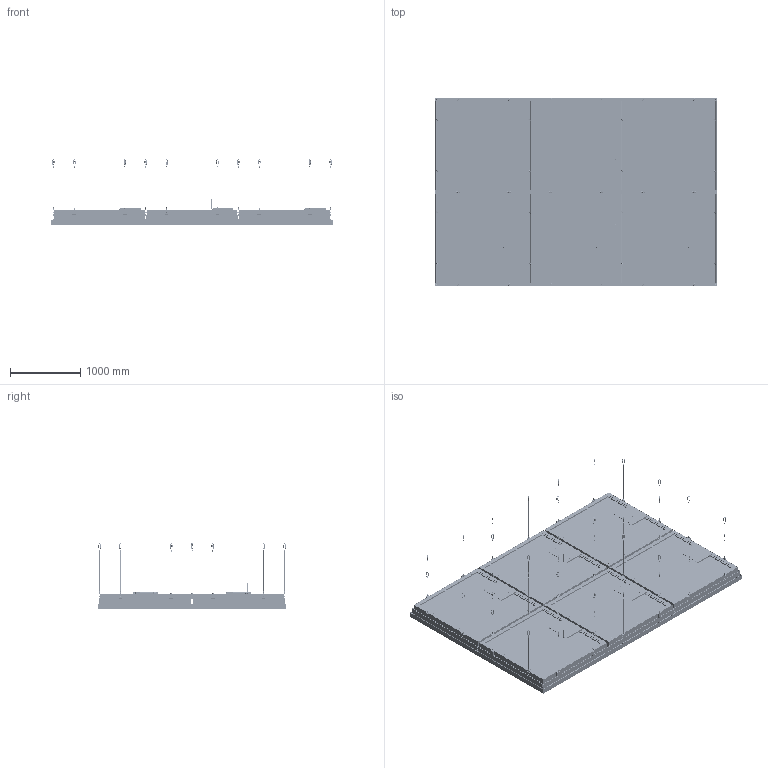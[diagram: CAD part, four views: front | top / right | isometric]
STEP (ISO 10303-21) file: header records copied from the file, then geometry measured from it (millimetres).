
FILE_DESCRIPTION (( 'STEP AP203' ), '1' );
FILE_NAME ('LSL-LUMISKY-4x4-Suspended-2H-3V.STEP', '2025-06-30T19:05:04', ( '' ), ( '' ), 'SwSTEP 2.0', 'SolidWorks 2023', '' );
FILE_SCHEMA (( 'CONFIG_CONTROL_DESIGN' ));
Length unit declared in the file: millimetre
Products named in the file (64): frame 1030 and 2125 2X2 V6.0_2125<As Machined>; AC CABLE CONNECTOR WITH BX CABLE; Part1^AC CABLE CONNECTOR WITH BX CABLE; extrusion for magnet V7.1; PORSCHE AIRCRAFT CABLE PORCHE160803._with cable 150mm; Assem of electrical plate ASTRA 4P V4.0; DC JUNCTION BOX only cover V4-4X4; GRID 4x4ft_2 X 3; Assem 1030 639_MIRROR; mullion extrude 4x4ft_2 X 3_4 x 8<As Machined>; 1030 1316_Default<As Machined>; M6 washer WITH SECURE V7.1; track-4X4; Mirrorsmall support plate-4X4; sub_assm_mullion 4x4ft_2 X 3; AC CABLE COLLETOR NUT; HLG-320H-24A-4X4; M6 knurl screw-4X4; secure screw V7.4; DC JUNC ASSEM^Assem collection line V4.0-4X4_ASTRA STATIC 4P; M8 X 1.25 FLANGE NUT_92461A400; M4 SCREW; 1030 881_Default<As Machined>; Assem PLUNGER from Joan 0425_released long; plunger-0425_2_released long; small support plate-4X4; AC CABLE COLLETOR; M3 x 3 Set Screw_91390A097; Assem of gripper of lumisky V7.4; Assem 1030 1316; Assem 1030 639; ASSM_FLS 2125_WITH ECU; Molex 2pin female-4X4; LSL-LUMISKY-4x4-Suspended-2H-3V; Assem 1030 881; plate for driver V4.1-4X4_SMALL; TRX-4X4_WITH BRACKET; DIFFUSER^ASSM_FLS 2125; PORSCHE ASSEMBLE hanging cable  PO170106.; M5 SCREW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
Assembly tree (125 placements, depth 8):
  LSL-LUMISKY-4x4-Suspended-2H-3V
    GRID 4x4ft_2 X 3
      Sub_assm_cb1030 4x4ft_2 X 3
        Assem 1030 1770  x3
          1030 1770_Default<As Machined>
          Assem OF MOUNTING RECTANGULAR V6.0_WITH SUSPENSION CABLE
            mounting rectangular V6.0
            91290A351_Alloy Steel Socket Head Screw
            M5 SCREW  x2
            M6 washer WITH SECURE V7.1
            SUSPENSION_LUMISKY
              Assem of gripper of lumisky V7.4
                Base of gripper V7.4
                Cover of gripper V7.4
                secure screw V7.4
                M3 x 3 Set Screw_91390A097
              PORSCHE ASSEMBLE hanging cable  PO170106.
                PORSCHE AIRCRAFT CABLE PORCHE160803._with cable 150mm
                PORSCHE RAPID LINK PORCHE20160912.
          Assem of Aluminum extrude for magnet V7.2
            extrusion for magnet V7.1
            M4 x 0.7 x12 flat screw for magnet_91294A192
            N52 magnet 8mm Green
        Assem 1030 881  x3
          1030 881_Default<As Machined>
          Assem OF MOUNTING RECTANGULAR V6.0_WITH SUSPENSION CABLE
            mounting rectangular V6.0
            91290A351_Alloy Steel Socket Head Screw
            M5 SCREW  x2
            M6 washer WITH SECURE V7.1
            SUSPENSION_LUMISKY
              Assem of gripper of lumisky V7.4
                Base of gripper V7.4
                Cover of gripper V7.4
                secure screw V7.4
                M3 x 3 Set Screw_91390A097
              PORSCHE ASSEMBLE hanging cable  PO170106.
                PORSCHE AIRCRAFT CABLE PORCHE160803._with cable 150mm
                PORSCHE RAPID LINK PORCHE20160912.
          Assem of Aluminum extrude for magnet V7.2
            extrusion for magnet V7.1
            M4 x 0.7 x12 flat screw for magnet_91294A192
            N52 magnet 8mm Green
        Assem 1030 1316  x3
          1030 1316_Default<As Machined>
          Assem OF MOUNTING RECTANGULAR V6.0_WITH SUSPENSION CABLE
            mounting rectangular V6.0
            91290A351_Alloy Steel Socket Head Screw
            M5 SCREW  x2
            M6 washer WITH SECURE V7.1
            SUSPENSION_LUMISKY
              Assem of gripper of lumisky V7.4
                Base of gripper V7.4
                Cover of gripper V7.4
                secure screw V7.4
                M3 x 3 Set Screw_91390A097
              PORSCHE ASSEMBLE hanging cable  PO170106.
                PORSCHE AIRCRAFT CABLE PORCHE160803._with cable 150mm
                PORSCHE RAPID LINK PORCHE20160912.
          Assem of Aluminum extrude for magnet V7.2
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Bounding box: 3998 x 2682 x 927.67 mm (x, y, z)
Topology: 1257 solids, 1275 shells, 52639 faces, 139354 edges, 89440 vertices
Faces by surface type: plane 22856, cylinder 19916, bspline 4638, cone 3897, torus 828, sphere 504
Entity records: 196897 total; most frequent: CARTESIAN_POINT 71152, ORIENTED_EDGE 25742, DIRECTION 22985, EDGE_CURVE 12871, VECTOR 8599, LINE 8599, VERTEX_POINT 8462, AXIS2_PLACEMENT_3D 7193
